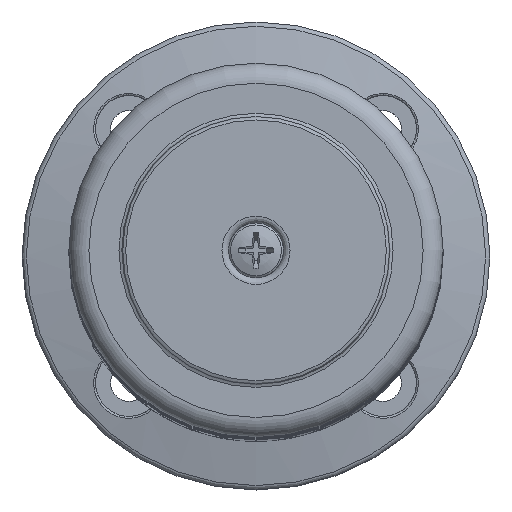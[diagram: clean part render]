
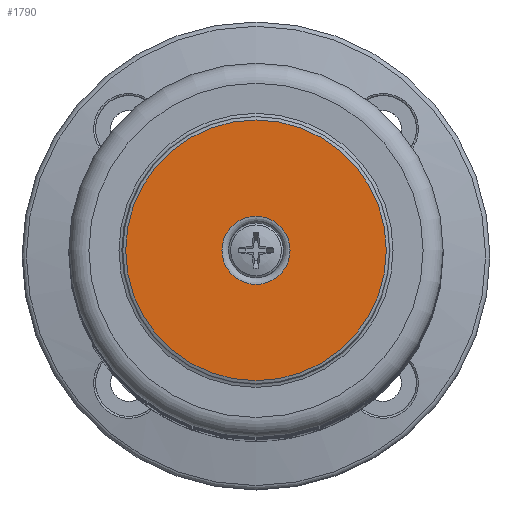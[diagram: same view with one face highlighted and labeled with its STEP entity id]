
A CAD part, top view. The second image highlights one B-rep face of the part: STEP entity #1790.
In plain terms, the highlighted planar face has unit normal (0, 0, 1).
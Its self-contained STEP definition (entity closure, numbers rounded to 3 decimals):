
#1790=ADVANCED_FACE('',(#4168,#4170),#4172,.T.);
#4168=FACE_BOUND('',#4169,.T.);
#4169=EDGE_LOOP('',(#6569));
#4170=FACE_BOUND('',#4171,.T.);
#4171=EDGE_LOOP('',(#6570));
#4172=PLANE('',#4173);
#4173=AXIS2_PLACEMENT_3D('',#4174,#4175,#4176);
#4174=CARTESIAN_POINT('',(0.,0.,8.7));
#4175=DIRECTION('',(0.,0.,1.));
#4176=DIRECTION('',(-1.,0.,0.));
#6569=ORIENTED_EDGE('',*,*,#7565,.F.);
#6570=ORIENTED_EDGE('',*,*,#7566,.T.);
#7565=EDGE_CURVE('',#8836,#8836,#8837,.T.);
#7566=EDGE_CURVE('',#8838,#8838,#8839,.T.);
#8836=VERTEX_POINT('',#13289);
#8837=CIRCLE('',#13290,19.5);
#8838=VERTEX_POINT('',#13294);
#8839=CIRCLE('',#13295,5.1);
#13289=CARTESIAN_POINT('',(-19.5,0.,8.7));
#13290=AXIS2_PLACEMENT_3D('',#13291,#13292,#13293);
#13291=CARTESIAN_POINT('',(0.,0.,8.7));
#13292=DIRECTION('',(0.,0.,-1.));
#13293=DIRECTION('',(-1.,0.,0.));
#13294=CARTESIAN_POINT('',(-5.1,0.,8.7));
#13295=AXIS2_PLACEMENT_3D('',#13296,#13297,#13298);
#13296=CARTESIAN_POINT('',(0.,0.,8.7));
#13297=DIRECTION('',(0.,0.,-1.));
#13298=DIRECTION('',(-1.,0.,0.));
